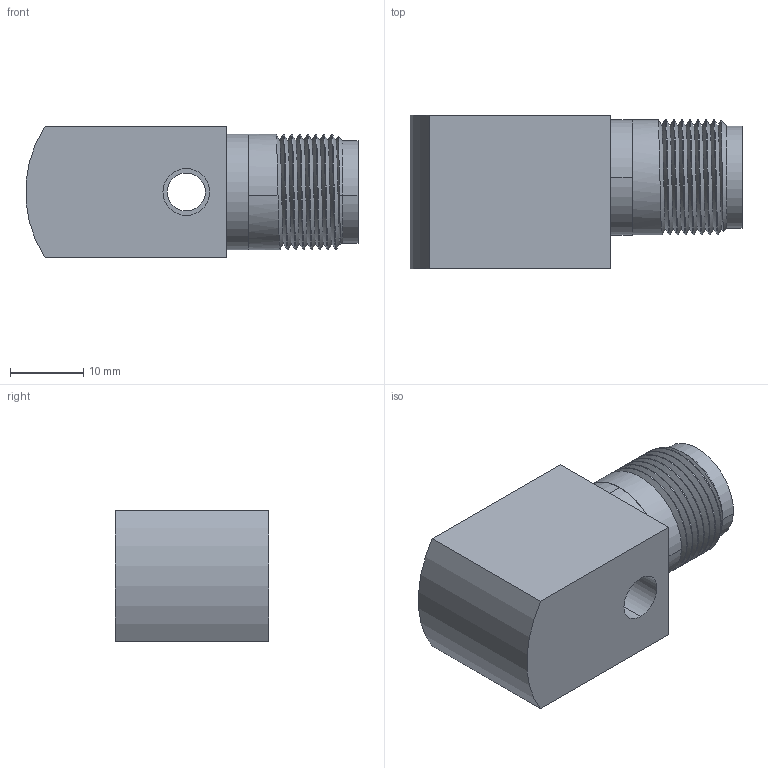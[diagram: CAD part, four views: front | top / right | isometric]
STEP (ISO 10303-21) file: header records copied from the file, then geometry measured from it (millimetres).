
FILE_DESCRIPTION (( 'STEP AP203' ), '1' );
FILE_NAME ('A26C100.STEP', '2024-07-30T23:02:02', ( '' ), ( '' ), 'SwSTEP 2.0', 'SolidWorks 2018', '' );
FILE_SCHEMA (( 'CONFIG_CONTROL_DESIGN' ));
Length unit declared in the file: millimetre
Products named in the file (4): 脣釱; 俋褲; 囀裔啣; A26C100
Assembly tree (3 placements, depth 2):
  A26C100
    俋褲
    脣釱
    囀裔啣
Bounding box: 45.44 x 21 x 18 mm (x, y, z)
Volume: 7040.8 mm3; surface area: 6995.7 mm2
Topology: 4 solids, 4 shells, 72 faces, 167 edges, 109 vertices
Faces by surface type: cylinder 41, plane 24, cone 5, bspline 2
Entity records: 3548 total; most frequent: CARTESIAN_POINT 1549, DIRECTION 335, ORIENTED_EDGE 334, EDGE_CURVE 167, AXIS2_PLACEMENT_3D 133, VERTEX_POINT 109, EDGE_LOOP 84, ADVANCED_FACE 72
